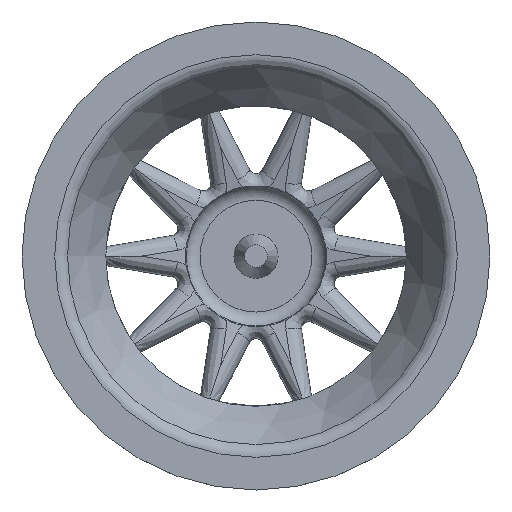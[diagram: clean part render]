
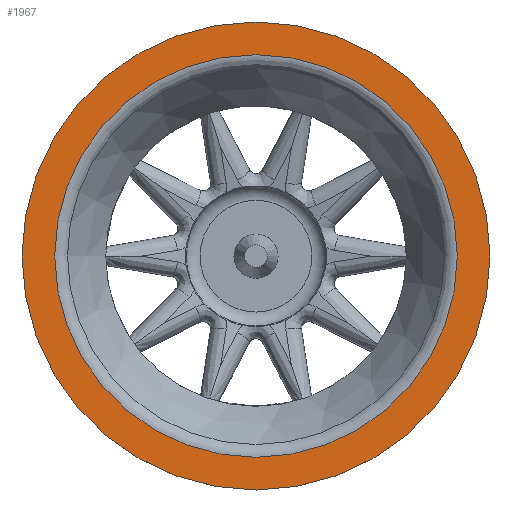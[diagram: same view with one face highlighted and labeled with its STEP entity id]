
A CAD part, top view. The second image highlights one B-rep face of the part: STEP entity #1967.
In plain terms, the highlighted planar face has unit normal (0, 0, 1).
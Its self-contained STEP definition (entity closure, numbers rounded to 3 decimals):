
#179=FACE_BOUND('',#346,.T.);
#192=PLANE('',#2166);
#240=FACE_OUTER_BOUND('',#345,.T.);
#345=EDGE_LOOP('',(#1510,#1511));
#346=EDGE_LOOP('',(#1512));
#636=CIRCLE('',#2058,7.95);
#637=CIRCLE('',#2059,7.95);
#706=CIRCLE('',#2158,6.839);
#737=VERTEX_POINT('',#2686);
#738=VERTEX_POINT('',#2688);
#869=VERTEX_POINT('',#3212);
#948=EDGE_CURVE('',#738,#737,#636,.T.);
#949=EDGE_CURVE('',#737,#738,#637,.T.);
#1113=EDGE_CURVE('',#869,#869,#706,.T.);
#1510=ORIENTED_EDGE('',*,*,#948,.T.);
#1511=ORIENTED_EDGE('',*,*,#949,.T.);
#1512=ORIENTED_EDGE('',*,*,#1113,.F.);
#1967=ADVANCED_FACE('',(#240,#179),#192,.T.);
#2058=AXIS2_PLACEMENT_3D('',#2689,#2235,#2236);
#2059=AXIS2_PLACEMENT_3D('',#2690,#2237,#2238);
#2158=AXIS2_PLACEMENT_3D('',#3213,#2513,#2514);
#2166=AXIS2_PLACEMENT_3D('',#3227,#2530,#2531);
#2235=DIRECTION('center_axis',(0.,0.,1.));
#2236=DIRECTION('ref_axis',(1.,0.,0.));
#2237=DIRECTION('center_axis',(0.,0.,1.));
#2238=DIRECTION('ref_axis',(1.,0.,0.));
#2513=DIRECTION('center_axis',(0.,0.,1.));
#2514=DIRECTION('ref_axis',(-1.,0.,0.));
#2530=DIRECTION('center_axis',(0.,0.,1.));
#2531=DIRECTION('ref_axis',(1.,0.,0.));
#2686=CARTESIAN_POINT('',(-7.95,0.,5.8));
#2688=CARTESIAN_POINT('',(7.95,0.,5.8));
#2689=CARTESIAN_POINT('Origin',(0.,0.,5.8));
#2690=CARTESIAN_POINT('Origin',(0.,0.,5.8));
#3212=CARTESIAN_POINT('',(6.839,0.,5.8));
#3213=CARTESIAN_POINT('Origin',(0.,0.,5.8));
#3227=CARTESIAN_POINT('Origin',(0.,0.,5.8));
